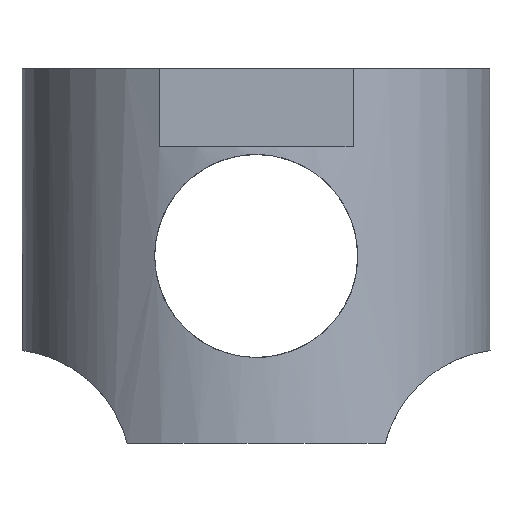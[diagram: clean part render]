
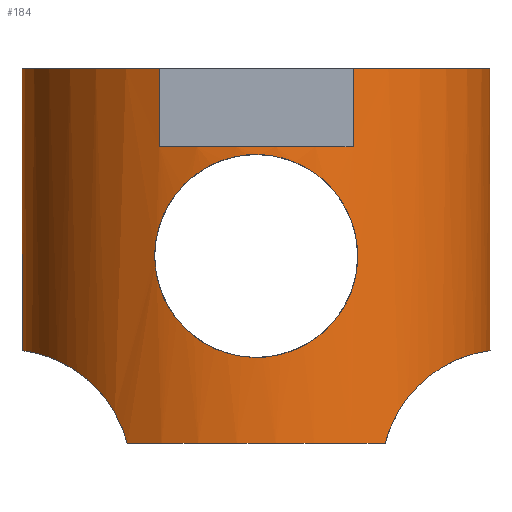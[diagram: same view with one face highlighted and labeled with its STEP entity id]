
A CAD part, front view. The second image highlights one B-rep face of the part: STEP entity #184.
In plain terms, the highlighted cylindrical face has radius 7.5 mm (diameter 15 mm), a full revolution.
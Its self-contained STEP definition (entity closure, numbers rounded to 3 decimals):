
#27=CIRCLE('',#210,7.5);
#28=CIRCLE('',#211,7.5);
#29=CIRCLE('',#212,7.5);
#30=CIRCLE('',#213,7.5);
#33=LINE('',#299,#45);
#34=LINE('',#304,#46);
#45=VECTOR('',#231,1000.);
#46=VECTOR('',#234,1000.);
#57=ORIENTED_EDGE('',*,*,#101,.T.);
#58=ORIENTED_EDGE('',*,*,#102,.T.);
#59=ORIENTED_EDGE('',*,*,#103,.T.);
#60=ORIENTED_EDGE('',*,*,#104,.F.);
#61=ORIENTED_EDGE('',*,*,#105,.T.);
#62=ORIENTED_EDGE('',*,*,#106,.T.);
#63=ORIENTED_EDGE('',*,*,#107,.F.);
#64=ORIENTED_EDGE('',*,*,#108,.F.);
#65=ORIENTED_EDGE('',*,*,#109,.F.);
#66=ORIENTED_EDGE('',*,*,#110,.F.);
#101=EDGE_CURVE('',#123,#123,#139,.T.);
#102=EDGE_CURVE('',#124,#125,#33,.T.);
#103=EDGE_CURVE('',#125,#126,#27,.T.);
#104=EDGE_CURVE('',#127,#126,#34,.T.);
#105=EDGE_CURVE('',#127,#124,#28,.F.);
#106=EDGE_CURVE('',#128,#128,#140,.T.);
#107=EDGE_CURVE('',#129,#130,#141,.T.);
#108=EDGE_CURVE('',#131,#129,#29,.T.);
#109=EDGE_CURVE('',#132,#131,#142,.T.);
#110=EDGE_CURVE('',#130,#132,#30,.T.);
#123=VERTEX_POINT('',#298);
#124=VERTEX_POINT('',#300);
#125=VERTEX_POINT('',#301);
#126=VERTEX_POINT('',#303);
#127=VERTEX_POINT('',#305);
#128=VERTEX_POINT('',#326);
#129=VERTEX_POINT('',#338);
#130=VERTEX_POINT('',#339);
#131=VERTEX_POINT('',#341);
#132=VERTEX_POINT('',#353);
#139=B_SPLINE_CURVE_WITH_KNOTS('',3,(#279,#280,#281,#282,#283,#284,#285,
#286,#287,#288,#289,#290,#291,#292,#293,#294,#295,#296,#297),
 .UNSPECIFIED.,.T.,.F.,(1,1,1,1,1,1,1,1,1,1,1,1,1,1,1,1,1,1,1,1,1,1,1),
(-0.004,-0.003,-0.001,0.,
0.001,0.003,0.004,0.005,
0.006,0.008,0.009,0.01,
0.012,0.013,0.014,0.015,
0.017,0.018,0.019,0.021,
0.022,0.023,0.024),.UNSPECIFIED.);
#140=B_SPLINE_CURVE_WITH_KNOTS('',3,(#307,#308,#309,#310,#311,#312,#313,
#314,#315,#316,#317,#318,#319,#320,#321,#322,#323,#324,#325),
 .UNSPECIFIED.,.T.,.F.,(1,1,1,1,1,1,1,1,1,1,1,1,1,1,1,1,1,1,1,1,1,1,1),
(-0.006,-0.004,-0.002,0.,
0.002,0.004,0.006,0.009,
0.011,0.013,0.015,0.017,
0.019,0.021,0.023,0.026,
0.028,0.03,0.032,0.034,
0.036,0.038,0.04),.UNSPECIFIED.);
#141=B_SPLINE_CURVE_WITH_KNOTS('',3,(#327,#328,#329,#330,#331,#332,#333,
#334,#335,#336,#337),.UNSPECIFIED.,.F.,.F.,(4,1,1,1,1,1,1,1,4),(-0.009,
-0.006,-0.004,-0.002,0.,
0.002,0.004,0.006,0.009),
 .UNSPECIFIED.);
#142=B_SPLINE_CURVE_WITH_KNOTS('',3,(#342,#343,#344,#345,#346,#347,#348,
#349,#350,#351,#352),.UNSPECIFIED.,.F.,.F.,(4,1,1,1,1,1,1,1,4),(0.,0.002,
0.004,0.006,0.009,0.011,
0.013,0.015,0.017),.UNSPECIFIED.);
#143=EDGE_LOOP('',(#57));
#144=EDGE_LOOP('',(#58,#59,#60,#61));
#145=EDGE_LOOP('',(#62));
#146=EDGE_LOOP('',(#63,#64,#65,#66));
#161=FACE_BOUND('',#143,.T.);
#162=FACE_BOUND('',#144,.T.);
#163=FACE_BOUND('',#145,.T.);
#164=FACE_BOUND('',#146,.T.);
#179=CYLINDRICAL_SURFACE('',#209,7.5);
#184=ADVANCED_FACE('',(#161,#162,#163,#164),#179,.T.);
#209=AXIS2_PLACEMENT_3D('',#278,#229,#230);
#210=AXIS2_PLACEMENT_3D('',#302,#232,#233);
#211=AXIS2_PLACEMENT_3D('',#306,#235,#236);
#212=AXIS2_PLACEMENT_3D('',#340,#237,#238);
#213=AXIS2_PLACEMENT_3D('',#354,#239,#240);
#229=DIRECTION('',(0.,0.,-1.));
#230=DIRECTION('',(-1.,0.,0.));
#231=DIRECTION('',(0.,0.,1.));
#232=DIRECTION('',(0.,0.,-1.));
#233=DIRECTION('',(1.,0.,0.));
#234=DIRECTION('',(0.,0.,1.));
#235=DIRECTION('',(0.,0.,1.));
#236=DIRECTION('',(1.,0.,0.));
#237=DIRECTION('',(0.,0.,-1.));
#238=DIRECTION('',(1.,0.,0.));
#239=DIRECTION('',(0.,0.,-1.));
#240=DIRECTION('',(1.,0.,0.));
#278=CARTESIAN_POINT('',(0.,0.,12.));
#279=CARTESIAN_POINT('',(1.292,-7.422,2.926));
#280=CARTESIAN_POINT('',(0.,-7.539,2.662));
#281=CARTESIAN_POINT('',(-1.292,-7.422,2.926));
#282=CARTESIAN_POINT('',(-2.357,-7.141,3.646));
#283=CARTESIAN_POINT('',(-3.073,-6.848,4.708));
#284=CARTESIAN_POINT('',(-3.338,-6.715,5.994));
#285=CARTESIAN_POINT('',(-3.076,-6.847,7.288));
#286=CARTESIAN_POINT('',(-2.358,-7.141,8.354));
#287=CARTESIAN_POINT('',(-1.293,-7.421,9.073));
#288=CARTESIAN_POINT('',(-0.006,-7.539,9.337));
#289=CARTESIAN_POINT('',(1.286,-7.423,9.077));
#290=CARTESIAN_POINT('',(2.357,-7.141,8.355));
#291=CARTESIAN_POINT('',(3.074,-6.848,7.292));
#292=CARTESIAN_POINT('',(3.337,-6.715,6.004));
#293=CARTESIAN_POINT('',(3.077,-6.847,4.713));
#294=CARTESIAN_POINT('',(2.358,-7.141,3.647));
#295=CARTESIAN_POINT('',(1.292,-7.422,2.926));
#296=CARTESIAN_POINT('',(0.,-7.539,2.662));
#297=CARTESIAN_POINT('',(-1.292,-7.422,2.926));
#298=CARTESIAN_POINT('',(0.,-7.5,2.75));
#299=CARTESIAN_POINT('',(-3.1,-6.829,9.5));
#300=CARTESIAN_POINT('',(-3.1,-6.829,9.5));
#301=CARTESIAN_POINT('',(-3.1,-6.829,12.));
#302=CARTESIAN_POINT('',(0.,0.,12.));
#303=CARTESIAN_POINT('',(3.1,-6.829,12.));
#304=CARTESIAN_POINT('',(3.1,-6.829,9.5));
#305=CARTESIAN_POINT('',(3.1,-6.829,9.5));
#306=CARTESIAN_POINT('',(0.,0.,9.5));
#307=CARTESIAN_POINT('',(-2.14,7.282,1.054));
#308=CARTESIAN_POINT('',(0.001,7.608,0.599));
#309=CARTESIAN_POINT('',(2.136,7.284,1.052));
#310=CARTESIAN_POINT('',(3.817,6.525,2.221));
#311=CARTESIAN_POINT('',(4.941,5.675,3.863));
#312=CARTESIAN_POINT('',(5.403,5.198,5.994));
#313=CARTESIAN_POINT('',(4.949,5.668,8.121));
#314=CARTESIAN_POINT('',(3.824,6.521,9.773));
#315=CARTESIAN_POINT('',(2.15,7.28,10.942));
#316=CARTESIAN_POINT('',(0.012,7.608,11.401));
#317=CARTESIAN_POINT('',(-2.129,7.287,10.952));
#318=CARTESIAN_POINT('',(-3.819,6.525,9.779));
#319=CARTESIAN_POINT('',(-4.945,5.671,8.129));
#320=CARTESIAN_POINT('',(-5.402,5.198,6.));
#321=CARTESIAN_POINT('',(-4.945,5.672,3.869));
#322=CARTESIAN_POINT('',(-3.814,6.527,2.217));
#323=CARTESIAN_POINT('',(-2.14,7.282,1.054));
#324=CARTESIAN_POINT('',(0.001,7.608,0.599));
#325=CARTESIAN_POINT('',(2.136,7.284,1.052));
#326=CARTESIAN_POINT('',(0.,7.5,0.75));
#327=CARTESIAN_POINT('',(4.127,6.262,0.));
#328=CARTESIAN_POINT('',(4.306,6.145,0.692));
#329=CARTESIAN_POINT('',(5.037,5.651,1.896));
#330=CARTESIAN_POINT('',(6.401,4.103,2.735));
#331=CARTESIAN_POINT('',(7.294,2.143,2.949));
#332=CARTESIAN_POINT('',(7.603,-0.007,2.978));
#333=CARTESIAN_POINT('',(7.295,-2.136,2.95));
#334=CARTESIAN_POINT('',(6.401,-4.103,2.735));
#335=CARTESIAN_POINT('',(5.04,-5.648,1.9));
#336=CARTESIAN_POINT('',(4.306,-6.145,0.692));
#337=CARTESIAN_POINT('',(4.127,-6.262,0.));
#338=CARTESIAN_POINT('',(4.127,6.262,0.));
#339=CARTESIAN_POINT('',(4.127,-6.262,0.));
#340=CARTESIAN_POINT('',(0.,0.,0.));
#341=CARTESIAN_POINT('',(-4.127,6.262,0.));
#342=CARTESIAN_POINT('',(-4.127,-6.262,0.));
#343=CARTESIAN_POINT('',(-4.306,-6.145,0.692));
#344=CARTESIAN_POINT('',(-5.037,-5.651,1.896));
#345=CARTESIAN_POINT('',(-6.401,-4.103,2.735));
#346=CARTESIAN_POINT('',(-7.294,-2.143,2.949));
#347=CARTESIAN_POINT('',(-7.603,0.007,2.978));
#348=CARTESIAN_POINT('',(-7.295,2.136,2.95));
#349=CARTESIAN_POINT('',(-6.401,4.103,2.735));
#350=CARTESIAN_POINT('',(-5.04,5.648,1.9));
#351=CARTESIAN_POINT('',(-4.306,6.145,0.692));
#352=CARTESIAN_POINT('',(-4.127,6.262,0.));
#353=CARTESIAN_POINT('',(-4.127,-6.262,0.));
#354=CARTESIAN_POINT('',(0.,0.,0.));
